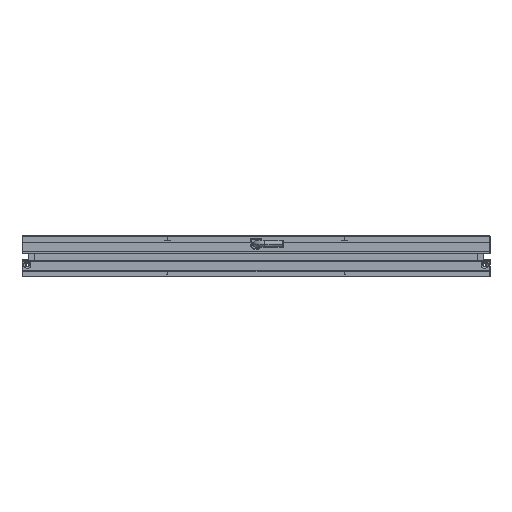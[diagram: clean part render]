
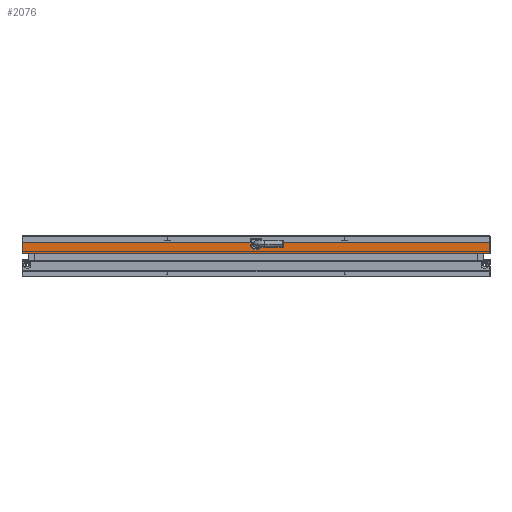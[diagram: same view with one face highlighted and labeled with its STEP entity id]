
A CAD part, left-side view. The second image highlights one B-rep face of the part: STEP entity #2076.
In plain terms, the highlighted planar face has unit normal (-1, 0, 0).
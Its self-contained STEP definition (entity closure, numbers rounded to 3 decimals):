
#511 = LINE ( 'NONE', #7518, #2183 ) ;
#610 = VECTOR ( 'NONE', #3961, 1000. ) ;
#666 = AXIS2_PLACEMENT_3D ( 'NONE', #3378, #6527, #3898 ) ;
#714 = AXIS2_PLACEMENT_3D ( 'NONE', #4316, #3011, #7577 ) ;
#730 = LINE ( 'NONE', #2562, #5324 ) ;
#744 = ORIENTED_EDGE ( 'NONE', *, *, #1249, .F. ) ;
#780 = CARTESIAN_POINT ( 'NONE',  ( -232., -131.5, -6.15 ) ) ;
#937 = CARTESIAN_POINT ( 'NONE',  ( -232., 131.5, -6.15 ) ) ;
#1249 = EDGE_CURVE ( 'NONE', #6430, #5160, #2960, .T. ) ;
#1730 = VERTEX_POINT ( 'NONE', #4202 ) ;
#2036 = EDGE_CURVE ( 'NONE', #1730, #2459, #2479, .T. ) ;
#2076 = ADVANCED_FACE ( 'NONE', ( #6573 ), #7135, .F. ) ;
#2183 = VECTOR ( 'NONE', #5048, 1000. ) ;
#2215 = EDGE_CURVE ( 'NONE', #6430, #5636, #5872, .T. ) ;
#2459 = VERTEX_POINT ( 'NONE', #3974 ) ;
#2479 = LINE ( 'NONE', #2667, #7686 ) ;
#2562 = CARTESIAN_POINT ( 'NONE',  ( -232., 132., -6.15 ) ) ;
#2667 = CARTESIAN_POINT ( 'NONE',  ( -232., 132., 0. ) ) ;
#2855 = CARTESIAN_POINT ( 'NONE',  ( -232., 3.25, 0. ) ) ;
#2905 = VERTEX_POINT ( 'NONE', #4477 ) ;
#2922 = CARTESIAN_POINT ( 'NONE',  ( -232., 131.5, 0. ) ) ;
#2960 = LINE ( 'NONE', #4520, #610 ) ;
#3011 = DIRECTION ( 'NONE',  ( 1., 0., 0. ) ) ;
#3216 = DIRECTION ( 'NONE',  ( 0., -1., 0. ) ) ;
#3299 = CARTESIAN_POINT ( 'NONE',  ( -232., 131.5, 0. ) ) ;
#3378 = CARTESIAN_POINT ( 'NONE',  ( -232., 132., -6.15 ) ) ;
#3629 = VECTOR ( 'NONE', #4998, 1000. ) ;
#3898 = DIRECTION ( 'NONE',  ( 0., 0., 1. ) ) ;
#3961 = DIRECTION ( 'NONE',  ( 0., -1., 0. ) ) ;
#3966 = EDGE_LOOP ( 'NONE', ( #4613, #4861, #744, #4369, #4238, #4824, #7906, #7351 ) ) ;
#3974 = CARTESIAN_POINT ( 'NONE',  ( -232., -131.5, 0. ) ) ;
#4167 = VECTOR ( 'NONE', #6818, 1000. ) ;
#4202 = CARTESIAN_POINT ( 'NONE',  ( -232., -3.25, 0. ) ) ;
#4238 = ORIENTED_EDGE ( 'NONE', *, *, #6215, .T. ) ;
#4316 = CARTESIAN_POINT ( 'NONE',  ( -232., 0., -0.75 ) ) ;
#4369 = ORIENTED_EDGE ( 'NONE', *, *, #2215, .T. ) ;
#4477 = CARTESIAN_POINT ( 'NONE',  ( -232., -3.25, -0.75 ) ) ;
#4513 = CIRCLE ( 'NONE', #714, 3.25 ) ;
#4520 = CARTESIAN_POINT ( 'NONE',  ( -232., 132., 0. ) ) ;
#4613 = ORIENTED_EDGE ( 'NONE', *, *, #6594, .T. ) ;
#4634 = LINE ( 'NONE', #6918, #3629 ) ;
#4639 = VECTOR ( 'NONE', #8006, 1000. ) ;
#4824 = ORIENTED_EDGE ( 'NONE', *, *, #8162, .F. ) ;
#4861 = ORIENTED_EDGE ( 'NONE', *, *, #5132, .T. ) ;
#4998 = DIRECTION ( 'NONE',  ( 0., 0., -1. ) ) ;
#5048 = DIRECTION ( 'NONE',  ( 0., 0., -1. ) ) ;
#5132 = EDGE_CURVE ( 'NONE', #6343, #5160, #5155, .T. ) ;
#5155 = LINE ( 'NONE', #6032, #4639 ) ;
#5160 = VERTEX_POINT ( 'NONE', #2855 ) ;
#5310 = EDGE_CURVE ( 'NONE', #1730, #2905, #4634, .T. ) ;
#5324 = VECTOR ( 'NONE', #3216, 1000. ) ;
#5534 = VERTEX_POINT ( 'NONE', #780 ) ;
#5636 = VERTEX_POINT ( 'NONE', #937 ) ;
#5724 = CARTESIAN_POINT ( 'NONE',  ( -232., 3.25, -0.75 ) ) ;
#5872 = LINE ( 'NONE', #2922, #4167 ) ;
#6032 = CARTESIAN_POINT ( 'NONE',  ( -232., 3.25, -6.15 ) ) ;
#6215 = EDGE_CURVE ( 'NONE', #5636, #5534, #730, .T. ) ;
#6343 = VERTEX_POINT ( 'NONE', #5724 ) ;
#6430 = VERTEX_POINT ( 'NONE', #3299 ) ;
#6527 = DIRECTION ( 'NONE',  ( 1., 0., 0. ) ) ;
#6573 = FACE_OUTER_BOUND ( 'NONE', #3966, .T. ) ;
#6594 = EDGE_CURVE ( 'NONE', #2905, #6343, #4513, .T. ) ;
#6818 = DIRECTION ( 'NONE',  ( 0., 0., -1. ) ) ;
#6918 = CARTESIAN_POINT ( 'NONE',  ( -232., -3.25, -6.15 ) ) ;
#7135 = PLANE ( 'NONE',  #666 ) ;
#7166 = DIRECTION ( 'NONE',  ( 0., -1., 0. ) ) ;
#7351 = ORIENTED_EDGE ( 'NONE', *, *, #5310, .T. ) ;
#7518 = CARTESIAN_POINT ( 'NONE',  ( -232., -131.5, 0. ) ) ;
#7577 = DIRECTION ( 'NONE',  ( 0., 0., -1. ) ) ;
#7686 = VECTOR ( 'NONE', #7166, 1000. ) ;
#7906 = ORIENTED_EDGE ( 'NONE', *, *, #2036, .F. ) ;
#8006 = DIRECTION ( 'NONE',  ( 0., 0., 1. ) ) ;
#8162 = EDGE_CURVE ( 'NONE', #2459, #5534, #511, .T. ) ;
